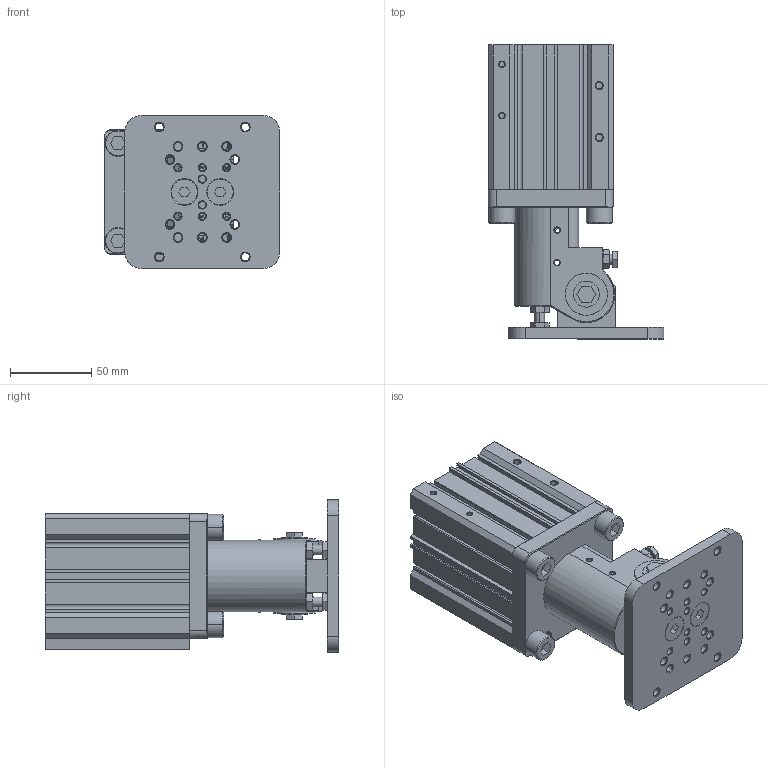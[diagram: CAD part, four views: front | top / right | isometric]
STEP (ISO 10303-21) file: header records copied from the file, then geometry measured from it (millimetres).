
FILE_DESCRIPTION(/* description */ (''),/* implementation_level */ '2;1');
FILE_NAME(/* name */ 'DHR2C-63M35PPV-ZG-ZB.stp',/* time_stamp */ '2025-04-09T11:22:00+08:00',/* author */ (''),/* organization */ (''),/* preprocessor_version */ 'ST-DEVELOPER v15',/* originating_system */ 'SIEMENS PLM Software NX 10.0',/* authorisation */ '');
FILE_SCHEMA (('AP203_CONFIGURATION_CONTROLLED_3D_DESIGN_OF_MECHANICAL_PARTS_AND_ASSEMBLIES_MIM_LF { 1 0 10303 403 2 1 2}'));
Length unit declared in the file: millimetre
Products named in the file (1): Admi00C8E5C0fe1x
Bounding box: 108.24 x 181.02 x 94 mm (x, y, z)
Volume: 714784.3 mm3; surface area: 165820.7 mm2
Topology: 31 solids, 34 shells, 1129 faces, 2752 edges, 1710 vertices
Faces by surface type: plane 482, cylinder 310, cone 273, sphere 48, torus 12, bspline 4
Full cylindrical faces by diameter (mm): 3 x2, 6 x1, 8 x2, 11.6 x2
Entity records: 35947 total; most frequent: CARTESIAN_POINT 9068, DIRECTION 5733, ORIENTED_EDGE 5372, EDGE_CURVE 2686, AXIS2_PLACEMENT_3D 2124, VERTEX_POINT 1703, LINE 1485, VECTOR 1485
